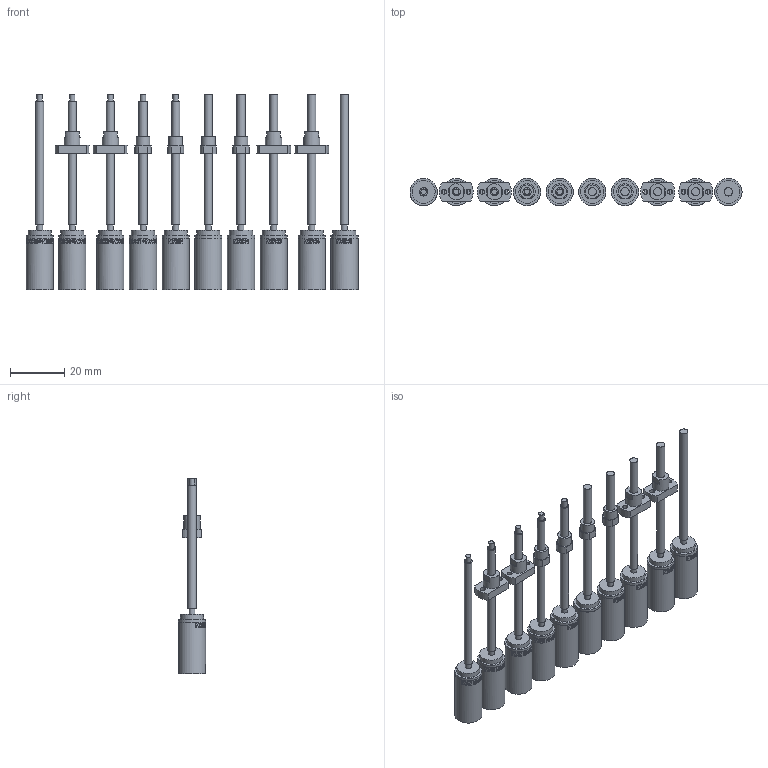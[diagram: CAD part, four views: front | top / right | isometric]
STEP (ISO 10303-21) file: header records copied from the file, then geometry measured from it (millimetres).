
FILE_DESCRIPTION(/* description */ (''),/* implementation_level */ '2;1');
FILE_NAME(/* name */ '10L-4stage_SL_standard_KWNx_KWS1.stp',/* time_stamp */ '2023-05-12T06:56:08+02:00',/* author */ ('DR. FRITZ FAULHABER GmbH & Co. KG'),/* organization */ ('DR. FRITZ FAULHABER GmbH & Co. KG'),/* preprocessor_version */ 'ST-DEVELOPER v16.7',/* originating_system */ 'SIEMENS PLM Software NX 1919',/* authorisation */ '');
FILE_SCHEMA (('AUTOMOTIVE_DESIGN { 1 0 10303 214 3 1 1 1 }'));
Length unit declared in the file: millimetre
Products named in the file (1): H99999996-C-Linear Actuato
Bounding box: 122 x 10 x 71.75 mm (x, y, z)
Volume: 20909 mm3; surface area: 15333.3 mm2
Topology: 10 solids, 10 shells, 940 faces, 2267 edges, 1512 vertices
Faces by surface type: plane 484, bspline 245, cylinder 201, cone 10
Full cylindrical faces by diameter (mm): 1.8 x8, 2 x5, 2.2 x10, 3 x18, 3.12 x10, 3.52 x10, 4.959 x10, 5 x4, 6 x14, 8.5 x10, 9.8 x10, 10 x20
Entity records: 45142 total; most frequent: CARTESIAN_POINT 22017, ORIENTED_EDGE 4184, DIRECTION 2779, EDGE_CURVE 2092, VERTEX_POINT 1478, EDGE_LOOP 1262, B_SPLINE_CURVE_WITH_KNOTS 1198, AXIS2_PLACEMENT_3D 1189
